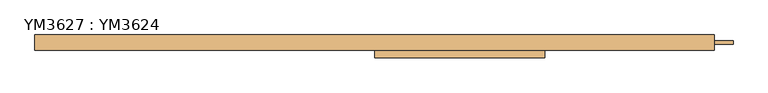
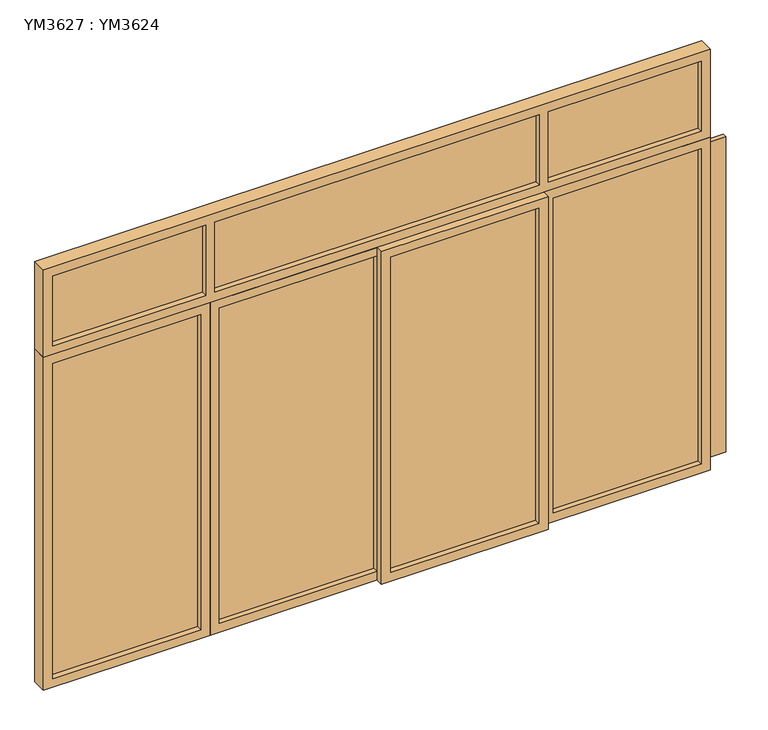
"""IFC4 building model written with IfcOpenShell, lengths in millimetres: door geometry, YM3627 : YM3624."""

from ifc_helpers import new_model, si_unit, frame, origin, place, context, project, spatial, polyline, outline, extrude, source, transform, mapped, element, save


def ym3627_ym3624_cbced519(model_context):
    return source(origin(), model_context, "Body", "SweptSolid", [
        extrude(outline(polyline([(0.0, 900.3176948), (1900.0, 900.3176948), (1900.0, 0.0), (0.0, 0.0), (0.0, 900.3176948)]), holes=[polyline([(50.0, 850.3176948), (50.0, 50.0), (1850.0, 50.0), (1850.0, 850.3176948), (50.0, 850.3176948)])]), frame((0.0, -80.0, 0.0), z_axis=(0.0, 1.0, 0.0), x_axis=(0.0, 0.0, 1.0)), (0.0, 0.0, 1.0), 80.0),
        extrude(outline(polyline([(850.3176948, -50.0), (50.0, -50.0), (50.0, -30.0), (850.3176948, -30.0), (850.3176948, -50.0)])), frame((0.0, 0.0, 50.0), z_axis=(0.0, 0.0, 1.0), x_axis=(1.0, 0.0, 0.0)), (0.0, 0.0, 1.0), 1800.0),
        extrude(outline(polyline([(1898.9817145, -10.0), (950.3176948, -10.0), (950.3176948, 10.0), (1898.9817145, 10.0), (1898.9817145, -10.0)])), frame((0.0, 0.0, 50.0), z_axis=(0.0, 0.0, 1.0), x_axis=(1.0, 0.0, 0.0)), (0.0, 0.0, 1.0), 1800.0),
        extrude(outline(polyline([(-950.3176948, -10.0), (-1750.0, -10.0), (-1750.0, 10.0), (-950.3176948, 10.0), (-950.3176948, -10.0)])), frame((0.0, 0.0, 50.0), z_axis=(0.0, 0.0, 1.0), x_axis=(1.0, 0.0, 0.0)), (0.0, 0.0, 1.0), 1800.0),
        extrude(outline(polyline([(1750.0, -10.0), (925.3176948, -10.0), (925.3176948, 10.0), (1750.0, 10.0), (1750.0, -10.0)])), frame((0.0, 0.0, 1950.0), z_axis=(0.0, 0.0, 1.0), x_axis=(1.0, 0.0, 0.0)), (0.0, 0.0, 1.0), 400.0),
        extrude(outline(polyline([(875.3176948, -10.0), (-875.9530843, -10.0), (-875.9530843, 10.0), (875.3176948, 10.0), (875.3176948, -10.0)])), frame((0.0, 0.0, 1950.0), z_axis=(0.0, 0.0, 1.0), x_axis=(1.0, 0.0, 0.0)), (0.0, 0.0, 1.0), 400.0),
        extrude(outline(polyline([(-924.6823052, -10.0), (-1750.0, -10.0), (-1750.0, 10.0), (-924.6823052, 10.0), (-924.6823052, -10.0)])), frame((0.0, 0.0, 1950.0), z_axis=(0.0, 0.0, 1.0), x_axis=(1.0, 0.0, 0.0)), (0.0, 0.0, 1.0), 400.0),
        extrude(outline(polyline([(-0.3176948, -10.0), (-850.3176948, -10.0), (-850.3176948, 10.0), (-0.3176948, 10.0), (-0.3176948, -10.0)])), frame((0.0, 0.0, 50.0), z_axis=(0.0, 0.0, 1.0), x_axis=(1.0, 0.0, 0.0)), (0.0, 0.0, 1.0), 1800.0),
        extrude(outline(polyline([(0.0, -1800.0), (0.0, -900.3176948), (1900.0, -900.3176948), (1900.0, -1800.0), (0.0, -1800.0)]), holes=[polyline([(50.0, -1750.0), (1850.0, -1750.0), (1850.0, -950.3176948), (50.0, -950.3176948), (50.0, -1750.0)])]), frame((0.0, -40.0, 0.0), z_axis=(0.0, 1.0, 0.0), x_axis=(0.0, 0.0, 1.0)), (0.0, 0.0, 1.0), 80.0),
        extrude(outline(polyline([(0.0, -900.3176948), (0.0, 49.6823052), (1900.0, 49.6823052), (1900.0, -900.3176948), (0.0, -900.3176948)]), holes=[polyline([(50.0, -850.3176948), (1850.0, -850.3176948), (1850.0, -0.3176948), (50.0, -0.3176948), (50.0, -850.3176948)])]), frame((0.0, -40.0, 0.0), z_axis=(0.0, 1.0, 0.0), x_axis=(0.0, 0.0, 1.0)), (0.0, 0.0, 1.0), 80.0),
        extrude(outline(polyline([(0.0, 900.3176948), (0.0, 1800.0), (1900.0, 1800.0), (1900.0, 900.3176948), (0.0, 900.3176948)]), holes=[polyline([(50.0, 950.3176948), (1850.0, 950.3176948), (1850.0, 1750.0), (50.0, 1750.0), (50.0, 950.3176948)])]), frame((0.0, -40.0, 0.0), z_axis=(0.0, 1.0, 0.0), x_axis=(0.0, 0.0, 1.0)), (0.0, 0.0, 1.0), 80.0),
        extrude(outline(polyline([(1900.0, -1800.0), (1900.0, 1800.0), (2400.0, 1800.0), (2400.0, -1800.0), (1900.0, -1800.0)]), holes=[polyline([(1950.0, 925.3176948), (2350.0, 925.3176948), (2350.0, 1750.0), (1950.0, 1750.0), (1950.0, 925.3176948)]), polyline([(2350.0, -924.6823052), (1950.0, -924.6823052), (1950.0, -1750.0), (2350.0, -1750.0), (2350.0, -924.6823052)]), polyline([(2350.0, 875.3176948), (1950.0, 875.3176948), (1950.0, -874.6823052), (2350.0, -874.6823052), (2350.0, 875.3176948)])]), frame((0.0, -40.0, 0.0), z_axis=(0.0, 1.0, 0.0), x_axis=(0.0, 0.0, 1.0)), (0.0, 0.0, 1.0), 80.0),
    ])


if __name__ == "__main__":
    model = new_model("IFC4")
    model_context = context("Model", 3, world=origin())
    ifc_project = project(units=[si_unit("LENGTHUNIT", "METRE", prefix="MILLI")], contexts=[model_context])
    site = spatial("IfcSite", under=ifc_project)
    building = spatial("IfcBuilding", under=site)
    placement = place(None, origin())
    ym3627_ym3624_shape = ym3627_ym3624_cbced519(model_context)
    element("IfcDoor", 1, ObjectType="YM3627 : YM3624", at=placement, inside=building, context=model_context, shape_type="MappedRepresentation", body=[
        mapped(ym3627_ym3624_shape, transform((0.0, 0.0, 0.0), x_axis=(1.0, 0.0, 0.0), y_axis=(0.0, 1.0, 0.0), z_axis=(0.0, 0.0, 1.0))),
    ])
    save(model, "model.ifc")
